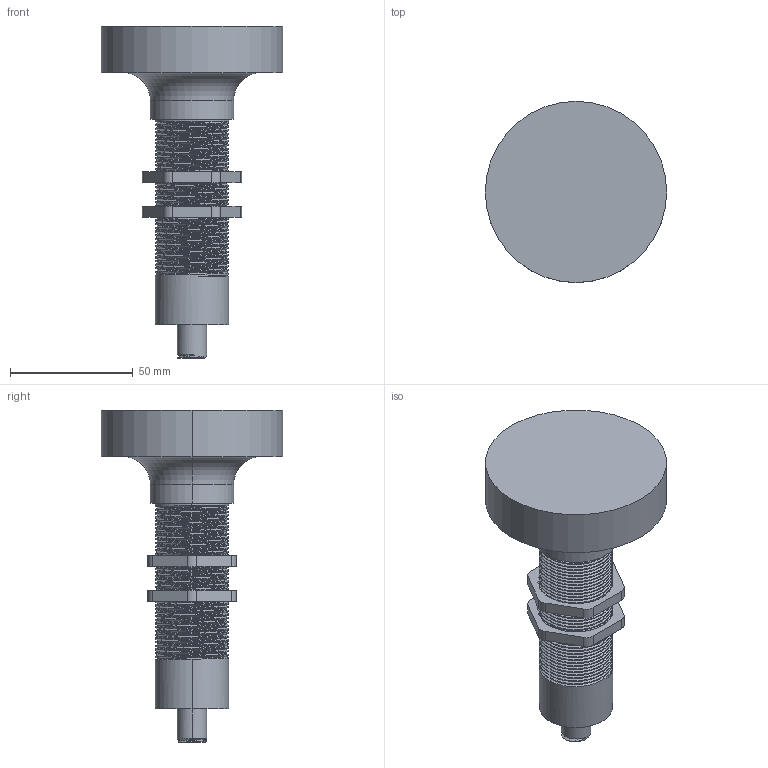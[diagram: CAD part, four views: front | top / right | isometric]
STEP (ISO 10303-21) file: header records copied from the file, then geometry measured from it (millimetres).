
FILE_DESCRIPTION((''),'2;1');
FILE_NAME('M30-TIPY300_ASM','2025-12-24T16:10:35',('28740194'),(''),'CREO PARAMETRIC BY PTC INC, 2024063','CREO PARAMETRIC BY PTC INC, 2024063','');
FILE_SCHEMA(('CONFIG_CONTROL_DESIGN'));
Length unit declared in the file: millimetre
Products named in the file (3): M30-TIPY3; M30000; M30-TIPY300_ASM
Assembly tree (3 placements, depth 2):
  M30-TIPY300_ASM
    M30-TIPY3
    M30000  x2
Bounding box: 74 x 74 x 135.5 mm (x, y, z)
Volume: 164542.6 mm3; surface area: 30774.6 mm2
Topology: 3 solids, 3 shells, 194 faces, 525 edges, 340 vertices
Faces by surface type: cylinder 116, bspline 54, plane 22, torus 2
Entity records: 22129 total; most frequent: CARTESIAN_POINT 18464, ORIENTED_EDGE 910, DIRECTION 474, EDGE_CURVE 455, VERTEX_POINT 294, B_SPLINE_CURVE_WITH_KNOTS 270, EDGE_LOOP 173, FACE_OUTER_BOUND 168
